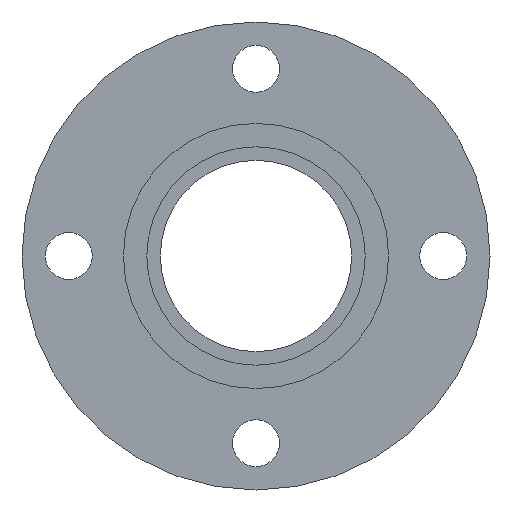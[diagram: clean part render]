
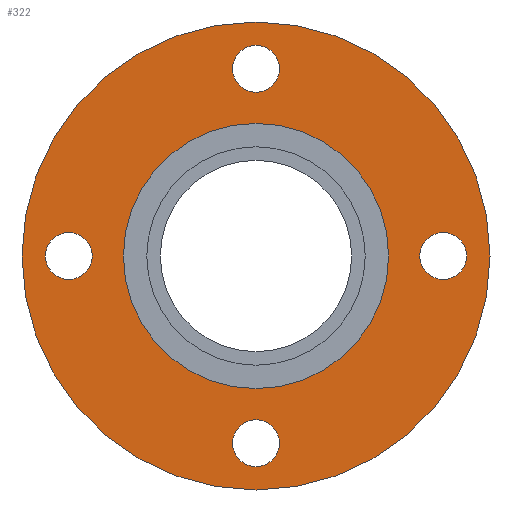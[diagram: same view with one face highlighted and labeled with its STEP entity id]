
A CAD part, left-side view. The second image highlights one B-rep face of the part: STEP entity #322.
In plain terms, the highlighted planar face has unit normal (-1, 0, 0).
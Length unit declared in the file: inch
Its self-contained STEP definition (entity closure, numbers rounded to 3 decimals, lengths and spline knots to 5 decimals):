
#14=FACE_BOUND('',#56,.T.);
#15=FACE_BOUND('',#57,.T.);
#16=FACE_BOUND('',#58,.T.);
#17=FACE_BOUND('',#59,.T.);
#18=FACE_BOUND('',#60,.T.);
#28=PLANE('',#370);
#39=FACE_OUTER_BOUND('',#55,.T.);
#55=EDGE_LOOP('',(#228,#229));
#56=EDGE_LOOP('',(#230));
#57=EDGE_LOOP('',(#231));
#58=EDGE_LOOP('',(#232));
#59=EDGE_LOOP('',(#233));
#60=EDGE_LOOP('',(#234,#235));
#101=CIRCLE('',#355,0.375);
#103=CIRCLE('',#358,0.375);
#105=CIRCLE('',#361,0.375);
#107=CIRCLE('',#364,0.375);
#108=CIRCLE('',#366,3.75);
#109=CIRCLE('',#367,3.75);
#112=CIRCLE('',#371,2.125);
#113=CIRCLE('',#372,2.125);
#133=VERTEX_POINT('',#513);
#135=VERTEX_POINT('',#519);
#137=VERTEX_POINT('',#525);
#139=VERTEX_POINT('',#531);
#140=VERTEX_POINT('',#535);
#141=VERTEX_POINT('',#536);
#144=VERTEX_POINT('',#545);
#145=VERTEX_POINT('',#546);
#166=EDGE_CURVE('',#133,#133,#101,.T.);
#169=EDGE_CURVE('',#135,#135,#103,.T.);
#172=EDGE_CURVE('',#137,#137,#105,.T.);
#175=EDGE_CURVE('',#139,#139,#107,.T.);
#176=EDGE_CURVE('',#140,#141,#108,.T.);
#177=EDGE_CURVE('',#141,#140,#109,.T.);
#181=EDGE_CURVE('',#144,#145,#112,.T.);
#182=EDGE_CURVE('',#145,#144,#113,.T.);
#228=ORIENTED_EDGE('',*,*,#176,.T.);
#229=ORIENTED_EDGE('',*,*,#177,.T.);
#230=ORIENTED_EDGE('',*,*,#166,.T.);
#231=ORIENTED_EDGE('',*,*,#169,.T.);
#232=ORIENTED_EDGE('',*,*,#172,.T.);
#233=ORIENTED_EDGE('',*,*,#175,.T.);
#234=ORIENTED_EDGE('',*,*,#181,.F.);
#235=ORIENTED_EDGE('',*,*,#182,.F.);
#322=ADVANCED_FACE('',(#39,#14,#15,#16,#17,#18),#28,.T.);
#355=AXIS2_PLACEMENT_3D('',#515,#408,#409);
#358=AXIS2_PLACEMENT_3D('',#521,#415,#416);
#361=AXIS2_PLACEMENT_3D('',#527,#422,#423);
#364=AXIS2_PLACEMENT_3D('',#533,#429,#430);
#366=AXIS2_PLACEMENT_3D('',#537,#433,#434);
#367=AXIS2_PLACEMENT_3D('',#538,#435,#436);
#370=AXIS2_PLACEMENT_3D('',#544,#442,#443);
#371=AXIS2_PLACEMENT_3D('',#547,#444,#445);
#372=AXIS2_PLACEMENT_3D('',#548,#446,#447);
#408=DIRECTION('center_axis',(1.,0.,0.));
#409=DIRECTION('ref_axis',(0.,-1.,0.));
#415=DIRECTION('center_axis',(1.,0.,0.));
#416=DIRECTION('ref_axis',(0.,0.,-1.));
#422=DIRECTION('center_axis',(1.,0.,0.));
#423=DIRECTION('ref_axis',(0.,1.,0.));
#429=DIRECTION('center_axis',(1.,0.,0.));
#430=DIRECTION('ref_axis',(0.,0.,1.));
#433=DIRECTION('center_axis',(-1.,0.,0.));
#434=DIRECTION('ref_axis',(0.,0.,1.));
#435=DIRECTION('center_axis',(-1.,0.,0.));
#436=DIRECTION('ref_axis',(0.,0.,1.));
#442=DIRECTION('center_axis',(-1.,0.,0.));
#443=DIRECTION('ref_axis',(0.,0.,1.));
#444=DIRECTION('center_axis',(-1.,0.,0.));
#445=DIRECTION('ref_axis',(0.,0.,1.));
#446=DIRECTION('center_axis',(-1.,0.,0.));
#447=DIRECTION('ref_axis',(0.,0.,1.));
#513=CARTESIAN_POINT('',(-0.94,3.375,0.));
#515=CARTESIAN_POINT('Origin',(-0.94,3.,0.));
#519=CARTESIAN_POINT('',(-0.94,0.,3.375));
#521=CARTESIAN_POINT('Origin',(-0.94,0.,3.));
#525=CARTESIAN_POINT('',(-0.94,-3.375,0.));
#527=CARTESIAN_POINT('Origin',(-0.94,-3.,0.));
#531=CARTESIAN_POINT('',(-0.94,0.,-3.375));
#533=CARTESIAN_POINT('Origin',(-0.94,0.,-3.));
#535=CARTESIAN_POINT('',(-0.94,0.,3.75));
#536=CARTESIAN_POINT('',(-0.94,0.,-3.75));
#537=CARTESIAN_POINT('Origin',(-0.94,0.,0.));
#538=CARTESIAN_POINT('Origin',(-0.94,0.,0.));
#544=CARTESIAN_POINT('Origin',(-0.94,0.,2.9375));
#545=CARTESIAN_POINT('',(-0.94,0.,2.125));
#546=CARTESIAN_POINT('',(-0.94,0.,-2.125));
#547=CARTESIAN_POINT('Origin',(-0.94,0.,0.));
#548=CARTESIAN_POINT('Origin',(-0.94,0.,0.));
